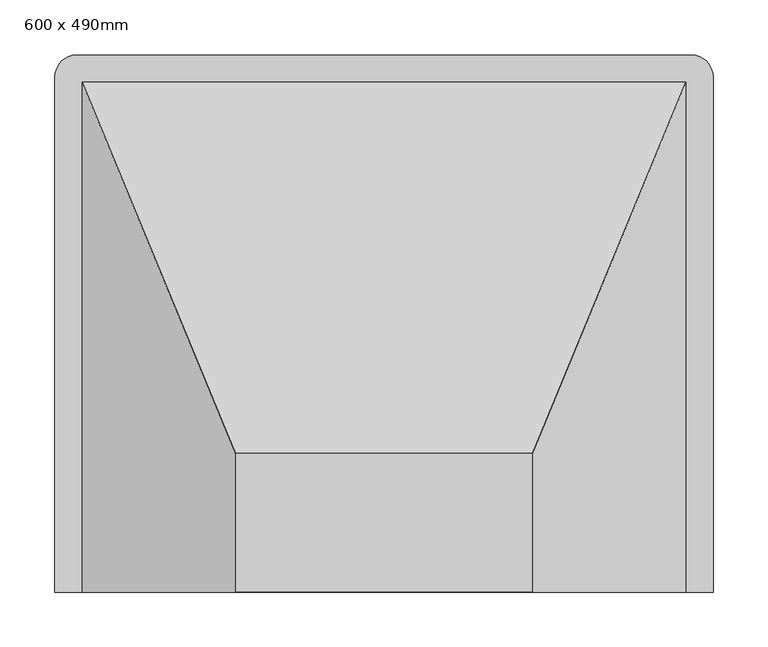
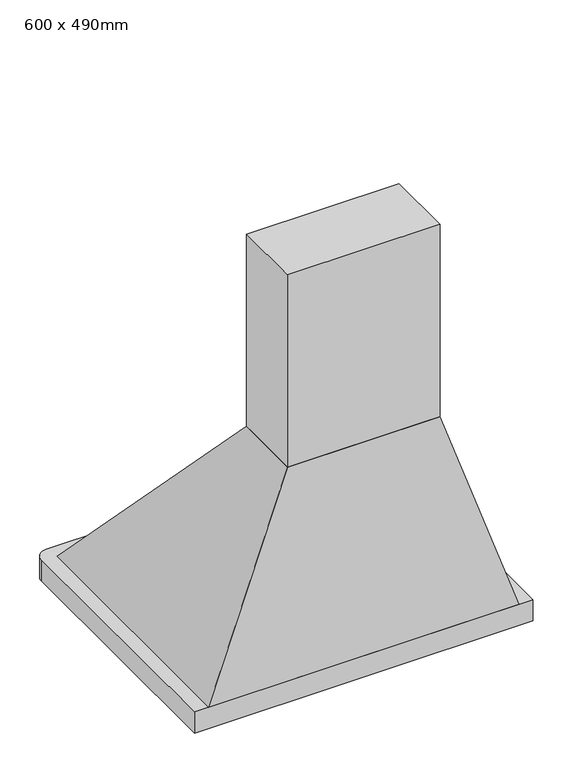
"""IFC4 building model written with IfcOpenShell, lengths in millimetres: proxy geometry, 排风罩 : 600 x 490mm."""

from ifc_helpers import new_model, si_unit, point, frame, frame_2d, origin, place, context, project, spatial, polyline, circle_curve, trimmed, segment, composite_curve, outline, extrude, faceted_brep, source, transform, mapped, element, save


def proxy_600_x_490mm_1f88b466(model_context):
    return source(origin(), model_context, "Body", "SolidModel", [
        faceted_brep([(-157.4217872, 226.2, 1840.0), (-157.4217872, 100.0, 1840.0), (112.5782128, 100.0, 1840.0), (112.5782128, 226.2, 1840.0), (-297.4217872, 565.0, 1440.0), (252.5782128, 565.0, 1440.0), (252.5782128, 100.0, 1440.0), (-297.4217872, 100.0, 1440.0)], [[[0, 1, 2, 3]], [[4, 5, 6, 7]], [[4, 7, 1, 0]], [[7, 6, 2, 1]], [[6, 5, 3, 2]], [[5, 4, 0, 3]]]),
        extrude(outline(polyline([(112.5782128, 226.2), (112.5782128, 100.0), (-157.4217872, 100.0), (-157.4217872, 226.2), (112.5782128, 226.2)])), frame((0.0, 0.0, 1840.0), z_axis=(0.0, 0.0, 1.0), x_axis=(1.0, 0.0, 0.0)), (0.0, 0.0, 1.0), 360.0),
        extrude(outline(composite_curve([segment(trimmed(circle_curve(frame_2d((257.5782128, 570.0)), 20.0), [point((257.5782128, 590.0))], [point((277.5782128, 570.0))], False, "CARTESIAN"), True, "CONTINUOUS"), segment(polyline([(277.5782128, 570.0), (277.5782128, 100.0), (-322.4217872, 100.0), (-322.4217872, 570.0)]), True, "CONTINUOUS"), segment(trimmed(circle_curve(frame_2d((-302.4217872, 570.0)), 20.0), [point((-322.4217872, 570.0))], [point((-302.4217872, 590.0))], False, "CARTESIAN"), True, "CONTINUOUS"), segment(polyline([(-302.4217872, 590.0), (257.5782128, 590.0)]), True, "CONTINUOUS")], self_intersect=False)), frame((0.0, 0.0, 1400.0), z_axis=(0.0, 0.0, 1.0), x_axis=(1.0, 0.0, 0.0)), (0.0, 0.0, 1.0), 40.0),
    ])


if __name__ == "__main__":
    model = new_model("IFC4")
    model_context = context("Model", 3, world=origin())
    ifc_project = project(units=[si_unit("LENGTHUNIT", "METRE", prefix="MILLI")], contexts=[model_context])
    site = spatial("IfcSite", under=ifc_project)
    building = spatial("IfcBuilding", under=site)
    placement = place(None, origin())
    proxy_600_x_490mm_shape = proxy_600_x_490mm_1f88b466(model_context)
    element("IfcBuildingElementProxy", 1, Name="排风罩 : 600 x 490mm", ObjectType="排风罩 : 600 x 490mm", at=placement, inside=building, context=model_context, shape_type="MappedRepresentation", body=[
        mapped(proxy_600_x_490mm_shape, transform((0.0, 0.0, 0.0), x_axis=(1.0, 0.0, 0.0), y_axis=(0.0, 1.0, 0.0), z_axis=(0.0, 0.0, 1.0))),
    ])
    save(model, "model.ifc")
